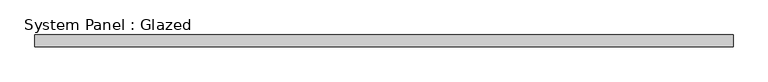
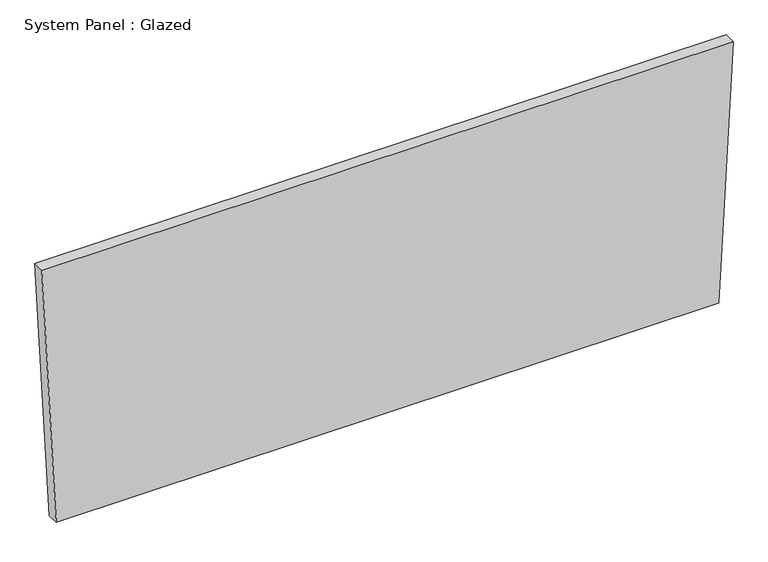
"""IFC4 building model written with IfcOpenShell, lengths in millimetres: plate geometry, System Panel : Glazed."""

from ifc_helpers import new_model, si_unit, frame, origin, place, context, project, spatial, polyline, outline, extrude, source, transform, mapped, element, save


def system_panel_glazed_973a940c(model_context):
    return source(origin(), model_context, "Body", "SweptSolid", [
        extrude(outline(polyline([(0.0, -711.5673727), (0.0, 711.5673727), (583.3538533, 742.3354171), (583.3538533, -742.3354171), (0.0, -711.5673727)])), frame((0.0, -44.45, 0.0), z_axis=(0.0, 1.0, 0.0), x_axis=(0.0, 0.0, 1.0)), (0.0, 0.0, 1.0), 25.4),
    ])


if __name__ == "__main__":
    model = new_model("IFC4")
    model_context = context("Model", 3, world=origin())
    ifc_project = project(units=[si_unit("LENGTHUNIT", "METRE", prefix="MILLI")], contexts=[model_context])
    site = spatial("IfcSite", under=ifc_project)
    building = spatial("IfcBuilding", under=site)
    placement = place(None, origin())
    system_panel_glazed_shape = system_panel_glazed_973a940c(model_context)
    element("IfcPlate", 1, ObjectType="System Panel : Glazed", at=placement, inside=building, context=model_context, shape_type="MappedRepresentation", body=[
        mapped(system_panel_glazed_shape, transform((0.0, 0.0, 0.0), x_axis=(1.0, 0.0, 0.0), y_axis=(0.0, 1.0, 0.0), z_axis=(0.0, 0.0, 1.0))),
    ])
    save(model, "model.ifc")
